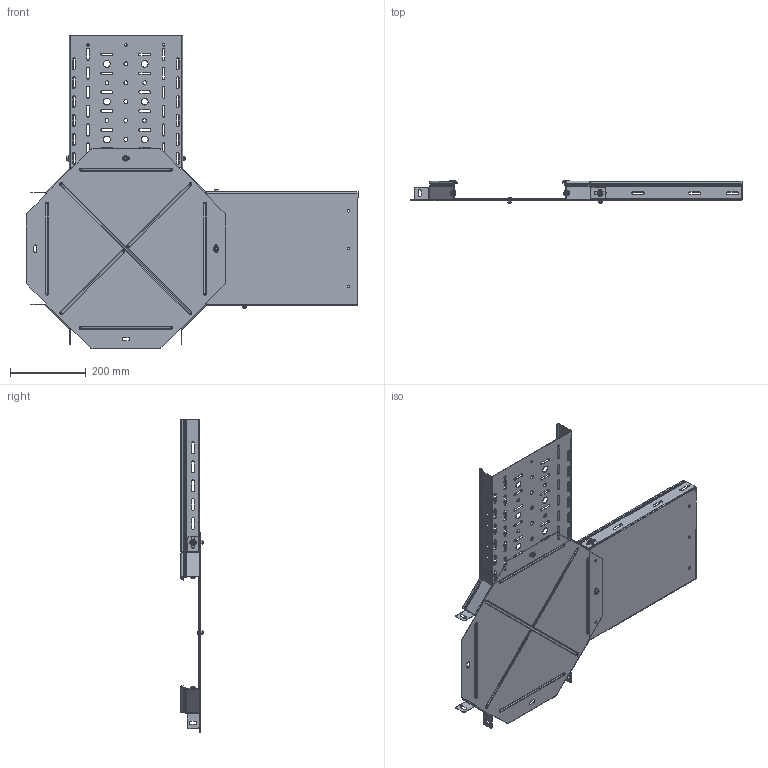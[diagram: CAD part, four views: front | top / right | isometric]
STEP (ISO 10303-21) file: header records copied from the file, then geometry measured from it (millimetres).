
FILE_DESCRIPTION (( 'STEP AP214' ), '1' );
FILE_NAME ('ﾓﾑﾕﾐ+ﾓﾋ(ﾍ)+ﾓﾋ(ﾏ)_50.STEP', '2016-10-06T20:08:06', ( '' ), ( '' ), 'SwSTEP 2.0', 'SolidWorks 2016', '' );
FILE_SCHEMA (( 'AUTOMOTIVE_DESIGN' ));
Length unit declared in the file: millimetre
Products named in the file (6): 080835 ÓÑÕÐ-300õ50; pan head cross recess screw_din_ISO 7045 - M6 x 10 - Z --- 10N; hex flange nut_din_Hexagon Flange Nut DIN 6923 - M6 - N; ÓË(Ï)-300õÍõ550_3000.1,5.300.50; ÓË(Í)-300õÍõ550_3000.1,5.300.50; ﾓﾑﾕﾐ+ﾓﾋ(ﾍ)+ﾓﾋ(ﾏ)_50
Assembly tree (15 placements, depth 2):
  ﾓﾑﾕﾐ+ﾓﾋ(ﾍ)+ﾓﾋ(ﾏ)_50
    ÓË(Í)-300õÍõ550_3000.1,5.300.50
    ÓË(Ï)-300õÍõ550_3000.1,5.300.50
    hex flange nut_din_Hexagon Flange Nut DIN 6923 - M6 - N  x6
    pan head cross recess screw_din_ISO 7045 - M6 x 10 - Z --- 10N  x6
    080835 ÓÑÕÐ-300õ50
Bounding box: 878 x 58.5 x 828 mm (x, y, z)
Volume: 711848.3 mm3; surface area: 1133152.8 mm2
Topology: 15 solids, 15 shells, 1240 faces, 3052 edges, 1850 vertices
Faces by surface type: plane 550, cylinder 434, cone 108, torus 64, bspline 44, sphere 40
Entity records: 27940 total; most frequent: CARTESIAN_POINT 5047, DIRECTION 4934, ORIENTED_EDGE 4560, EDGE_CURVE 2280, AXIS2_PLACEMENT_3D 1812, VERTEX_POINT 1395, VECTOR 1310, LINE 1310
